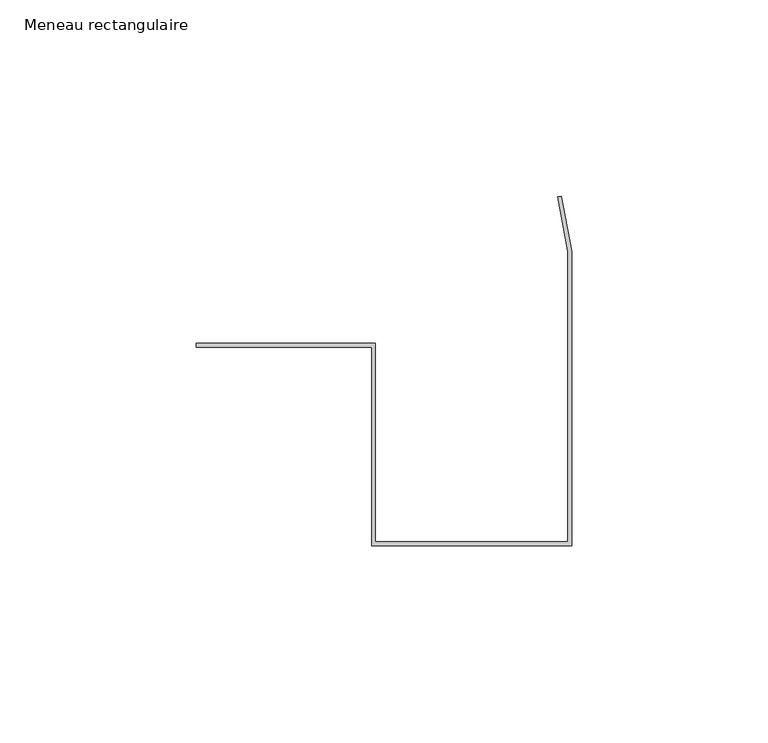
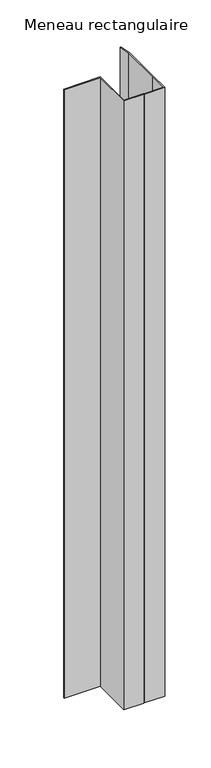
"""IFC4 building model written with IfcOpenShell, lengths in millimetres: member geometry, Meneau rectangulaire : Jonction contre mur Gauche H."""

from ifc_helpers import new_model, si_unit, frame, origin, place, context, project, spatial, polyline, outline, extrude, source, transform, mapped, element, save


def meneau_rectangulaire_6b71f10b(model_context):
    return source(origin(), model_context, "Body", "SweptSolid", [
        extrude(outline(polyline([(-1.0, 26.3950161), (-3.6043568, 40.2612876), (-2.6384309, 40.4427073), (0.0, 26.3950161), (0.0, -23.6049839), (0.0, -48.6049839), (-25.0, -48.6049839), (-26.0, -48.6049839), (-51.0, -48.6049839), (-51.0, 2.0), (-95.6686418, 2.0), (-95.6686418, 3.0), (-50.0, 3.0), (-50.0, -47.6049839), (-26.0, -47.6049839), (-25.0, -47.6049839), (-1.0, -47.6049839), (-1.0, -23.6049839), (-1.0, 26.3950161)])), frame((0.0, 0.0, -801.0), z_axis=(0.0, 0.0, 1.0), x_axis=(1.0, 0.0, 0.0)), (0.0, 0.0, 1.0), 801.0),
    ])


if __name__ == "__main__":
    model = new_model("IFC4")
    model_context = context("Model", 3, world=origin())
    ifc_project = project(units=[si_unit("LENGTHUNIT", "METRE", prefix="MILLI")], contexts=[model_context])
    site = spatial("IfcSite", under=ifc_project)
    building = spatial("IfcBuilding", under=site)
    placement = place(None, origin())
    meneau_rectangulaire_shape = meneau_rectangulaire_6b71f10b(model_context)
    element("IfcMember", 1, ObjectType="Meneau rectangulaire : Jonction contre mur Gauche H", at=placement, inside=building, context=model_context, shape_type="MappedRepresentation", body=[
        mapped(meneau_rectangulaire_shape, transform((0.0, 0.0, 0.0), x_axis=(1.0, 0.0, 0.0), y_axis=(0.0, 1.0, 0.0), z_axis=(0.0, 0.0, 1.0))),
    ])
    save(model, "model.ifc")
